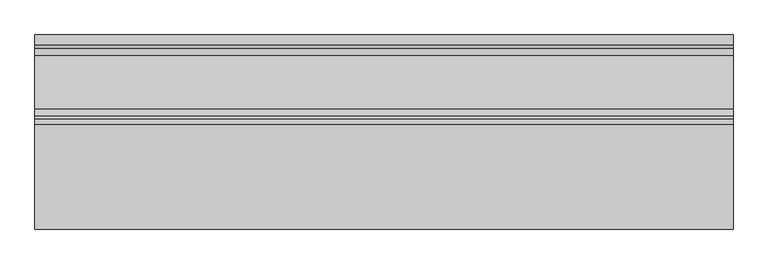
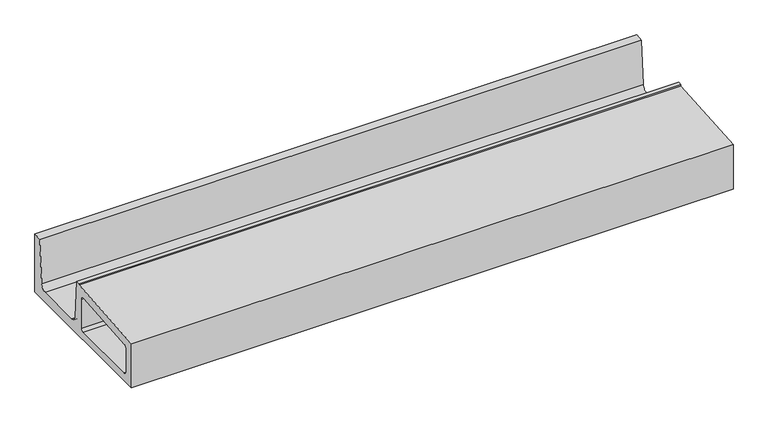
"""IFC4 building model written with IfcOpenShell, lengths in millimetres: proxy geometry, Muestra 2.01m RS921 : Muestra 2.01m RS921."""

from ifc_helpers import new_model, si_unit, point, frame, frame_2d, origin, place, context, project, spatial, polyline, circle_curve, trimmed, segment, composite_curve, outline, extrude, source, transform, mapped, element, save


def generic_models_8ecae792(model_context):
    return source(origin(), model_context, "Body", "SweptSolid", [
        extrude(outline(composite_curve([segment(polyline([(-6691.0480895, -36.254471), (-6388.9666223, -11.6664446), (-6389.3088515, -7.461915), (-6375.5679337, -6.3434682), (-6365.3858433, -138.8452474)]), True, "CONTINUOUS"), segment(trimmed(circle_curve(frame_2d((-6345.4456274, -137.3)), 20.0), [point((-6365.3858433, -138.8452474))], [point((-6345.4456274, -157.3))], True, "CARTESIAN"), True, "CONTINUOUS"), segment(polyline([(-6345.4456274, -157.3), (-6191.7505516, -157.3)]), True, "CONTINUOUS"), segment(trimmed(circle_curve(frame_2d((-6191.7505516, -137.3)), 20.0), [point((-6191.7505516, -157.3))], [point((-6171.8103357, -138.8452474))], True, "CARTESIAN"), True, "CONTINUOUS"), segment(polyline([(-6171.8103357, -138.8452474), (-6160.1836718, 11.187809), (-6132.0980895, 13.4738447), (-6132.0980895, -192.3), (-6691.0480895, -192.3), (-6691.0480895, -36.254471)]), True, "CONTINUOUS")], self_intersect=False), holes=[composite_curve([segment(polyline([(-6411.2770201, -45.6021794), (-6649.2770201, -64.9742724)]), True, "CONTINUOUS"), segment(trimmed(circle_curve(frame_2d((-6648.6280037, -72.9479026)), 8.0), [point((-6649.2770201, -64.9742724))], [point((-6656.6280037, -72.9479026))], True, "CARTESIAN"), True, "CONTINUOUS"), segment(polyline([(-6656.6280037, -72.9479026), (-6656.6280037, -157.3)]), True, "CONTINUOUS"), segment(trimmed(circle_curve(frame_2d((-6648.6280037, -157.3)), 8.0), [point((-6656.6280037, -157.3))], [point((-6648.6280037, -165.3))], True, "CARTESIAN"), True, "CONTINUOUS"), segment(polyline([(-6648.6280037, -165.3), (-6410.6280037, -165.3)]), True, "CONTINUOUS"), segment(trimmed(circle_curve(frame_2d((-6410.6280037, -157.3)), 8.0), [point((-6410.6280037, -165.3))], [point((-6402.6280037, -157.3))], True, "CARTESIAN"), True, "CONTINUOUS"), segment(polyline([(-6402.6280037, -157.3), (-6402.6280037, -53.5758096)]), True, "CONTINUOUS"), segment(trimmed(circle_curve(frame_2d((-6410.6280037, -53.5758096)), 8.0), [point((-6402.6280037, -53.5758096))], [point((-6411.2770201, -45.6021794))], True, "CARTESIAN"), True, "CONTINUOUS")], self_intersect=False)]), frame((138168.5532259, 0.0, 0.0), z_axis=(1.0, 0.0, 0.0), x_axis=(0.0, 1.0, 0.0)), (0.0, 0.0, 1.0), 2010.0),
    ])


if __name__ == "__main__":
    model = new_model("IFC4")
    model_context = context("Model", 3, world=origin())
    ifc_project = project(units=[si_unit("LENGTHUNIT", "METRE", prefix="MILLI")], contexts=[model_context])
    site = spatial("IfcSite", under=ifc_project)
    building = spatial("IfcBuilding", under=site)
    placement = place(None, origin())
    generic_models_shape = generic_models_8ecae792(model_context)
    element("IfcBuildingElementProxy", 1, Name="Muestra 2.01m RS921 : Muestra 2.01m RS921", ObjectType="Muestra 2.01m RS921 : Muestra 2.01m RS921", at=placement, inside=building, context=model_context, shape_type="MappedRepresentation", body=[
        mapped(generic_models_shape, transform((0.0, 0.0, 0.0), x_axis=(1.0, 0.0, 0.0), y_axis=(0.0, 1.0, 0.0), z_axis=(0.0, 0.0, 1.0))),
    ])
    save(model, "model.ifc")
